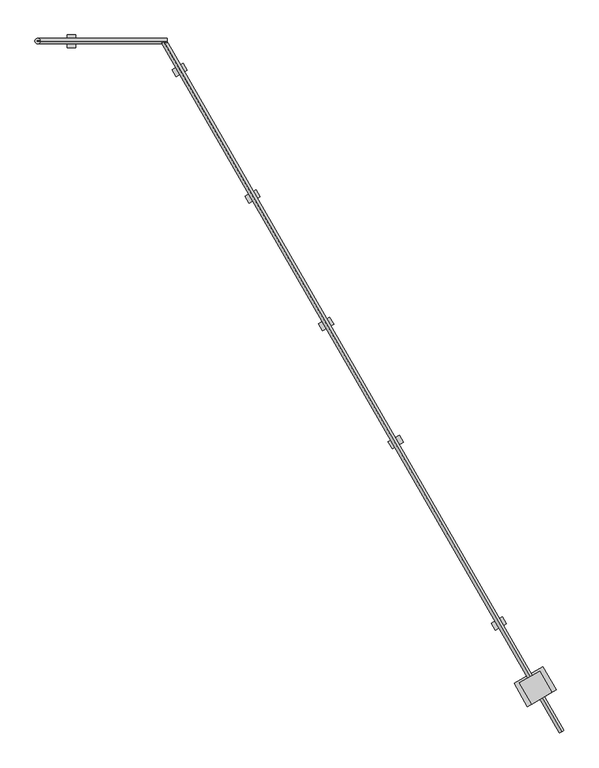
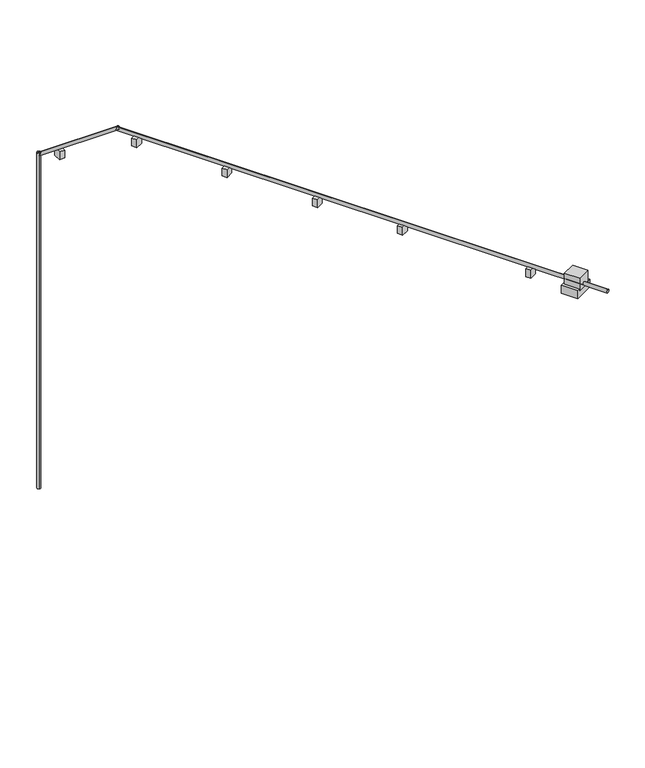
"""IFC4 building model written with IfcOpenShell, lengths in millimetres: proxy geometry, Conduit Gaz : Conduit Gaz."""

from ifc_helpers import new_model, si_unit, point, frame, frame_2d, origin, place, context, project, spatial, polyline, circle_curve, trimmed, segment, composite_curve, outline, extrude, source, transform, mapped, element, save


def generic_models_d6e69593(model_context):
    return source(origin(), model_context, "Body", "SweptSolid", [
        extrude(outline(polyline([(-16143.9976732, -2323.9003429), (-15905.9365049, -2736.2343818), (-16295.7676329, -2961.3034885), (-16533.8288012, -2548.9694496), (-16143.9976732, -2323.9003429)])), frame((0.0, 0.0, 11053.3082742), z_axis=(0.0, 0.0, 1.0), x_axis=(1.0, 0.0, 0.0)), (0.0, 0.0, 1.0), 421.0812692),
        extrude(outline(polyline([(-16867.5504069, -1263.9750051), (-16787.5504069, -1402.5390697), (-17004.0567578, -1527.5390697), (-17084.0567578, -1388.9750051), (-16867.5504069, -1263.9750051)])), frame((0.0, 0.0, 10853.3082742), z_axis=(0.0, 0.0, 1.0), x_axis=(1.0, 0.0, 0.0)), (0.0, 0.0, 1.0), 259.6546844),
        extrude(outline(polyline([(-20227.5504069, 4556.3855814), (-20147.5504069, 4417.8215168), (-20364.0567578, 4292.8215168), (-20444.0567578, 4431.3855814), (-20227.5504069, 4556.3855814)])), frame((0.0, 0.0, 10853.3082742), z_axis=(0.0, 0.0, 1.0), x_axis=(1.0, 0.0, 0.0)), (0.0, 0.0, 1.0), 259.6546844),
        extrude(outline(polyline([(-21657.5504069, 7033.2182362), (-21577.5504069, 6894.6541716), (-21794.0567578, 6769.6541716), (-21874.0567578, 6908.2182362), (-21657.5504069, 7033.2182362)])), frame((0.0, 0.0, 10853.3082742), z_axis=(0.0, 0.0, 1.0), x_axis=(1.0, 0.0, 0.0)), (0.0, 0.0, 1.0), 259.6546844),
        extrude(outline(polyline([(-23077.5504069, 9492.7303829), (-22997.5504069, 9354.1663183), (-23214.0567578, 9229.1663183), (-23294.0567578, 9367.7303829), (-23077.5504069, 9492.7303829)])), frame((0.0, 0.0, 10853.3082742), z_axis=(0.0, 0.0, 1.0), x_axis=(1.0, 0.0, 0.0)), (0.0, 0.0, 1.0), 259.6546844),
        extrude(outline(polyline([(-18873.2875238, 2262.0251124), (-18793.2875238, 2123.4610477), (-19009.7938748, 1998.4610477), (-19089.7938748, 2137.0251124), (-18873.2875238, 2262.0251124)])), frame((0.0, 0.0, 10853.3082742), z_axis=(0.0, 0.0, 1.0), x_axis=(1.0, 0.0, 0.0)), (0.0, 0.0, 1.0), 259.6546844),
        extrude(outline(polyline([(-16079.9156021, -2236.2369805), (-15819.9156021, -2686.5701905), (-16379.3513524, -3009.5605715), (-16639.3513524, -2559.2273616), (-16079.9156021, -2236.2369805)])), frame((0.0, 0.0, 10853.3082742), z_axis=(0.0, 0.0, 1.0), x_axis=(1.0, 0.0, 0.0)), (0.0, 0.0, 1.0), 259.6546844),
        extrude(outline(polyline([(-25328.9891731, 10040.3821074), (-25168.9891731, 10040.3821074), (-25168.9891731, 9790.3821074), (-25328.9891731, 9790.3821074), (-25328.9891731, 10040.3821074)])), frame((0.0, 0.0, 10853.3082742), z_axis=(0.0, 0.0, 1.0), x_axis=(1.0, 0.0, 0.0)), (0.0, 0.0, 1.0), 259.6546844),
        extrude(outline(composite_curve([segment(trimmed(circle_curve(frame_2d((9920.2371283, 11168.5187995)), 54.0), [point((9920.2371283, 11222.5187995))], [point((9920.2371283, 11114.5187995))], False, "CARTESIAN"), True, "CONTINUOUS"), segment(trimmed(circle_curve(frame_2d((9920.2371283, 11168.5187995)), 54.0), [point((9920.2371283, 11114.5187995))], [point((9920.2371283, 11222.5187995))], False, "CARTESIAN"), True, "CONTINUOUS")], self_intersect=False)), frame((-25908.9891757, 0.0, 0.0), z_axis=(1.0, 0.0, 0.0), x_axis=(0.0, 1.0, 0.0)), (0.0, 0.0, 1.0), 2521.7730555),
        extrude(outline(composite_curve([segment(trimmed(circle_curve(frame_2d((0.0, -54.0)), 54.0), [point((0.0, -108.0))], [point((0.0, 0.0))], False, "CARTESIAN"), True, "CONTINUOUS"), segment(trimmed(circle_curve(frame_2d((0.0, -54.0)), 54.0), [point((0.0, 0.0))], [point((0.0, -108.0))], False, "CARTESIAN"), True, "CONTINUOUS")], self_intersect=False)), frame((-15717.1338992, -3496.6527133, 11114.5187995), z_axis=(-0.499646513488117, 0.866229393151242, 0.0), x_axis=(0.866229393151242, 0.499646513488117, 0.0)), (0.0, 0.0, 1.0), 15489.5592633),
        extrude(outline(composite_curve([segment(trimmed(circle_curve(frame_2d((-25905.5192263, 9920.0463834)), 54.0), [point((-25905.5192263, 9866.0463834))], [point((-25905.5192263, 9974.0463834))], False, "CARTESIAN"), True, "CONTINUOUS"), segment(trimmed(circle_curve(frame_2d((-25905.5192263, 9920.0463834)), 54.0), [point((-25905.5192263, 9974.0463834))], [point((-25905.5192263, 9866.0463834))], False, "CARTESIAN"), True, "CONTINUOUS")], self_intersect=False)), frame((0.0, 0.0, 53.3928523), z_axis=(0.0, 0.0, 1.0), x_axis=(1.0, 0.0, 0.0)), (0.0, 0.0, 1.0), 11169.4126836),
    ])


if __name__ == "__main__":
    model = new_model("IFC4")
    model_context = context("Model", 3, world=origin())
    ifc_project = project(units=[si_unit("LENGTHUNIT", "METRE", prefix="MILLI")], contexts=[model_context])
    site = spatial("IfcSite", under=ifc_project)
    building = spatial("IfcBuilding", under=site)
    placement = place(None, origin())
    generic_models_shape = generic_models_d6e69593(model_context)
    element("IfcBuildingElementProxy", 1, Name="Conduit Gaz : Conduit Gaz", ObjectType="Conduit Gaz : Conduit Gaz", at=placement, inside=building, context=model_context, shape_type="MappedRepresentation", body=[
        mapped(generic_models_shape, transform((0.0, 0.0, 0.0), x_axis=(1.0, 0.0, 0.0), y_axis=(0.0, 1.0, 0.0), z_axis=(0.0, 0.0, 1.0))),
    ])
    save(model, "model.ifc")
